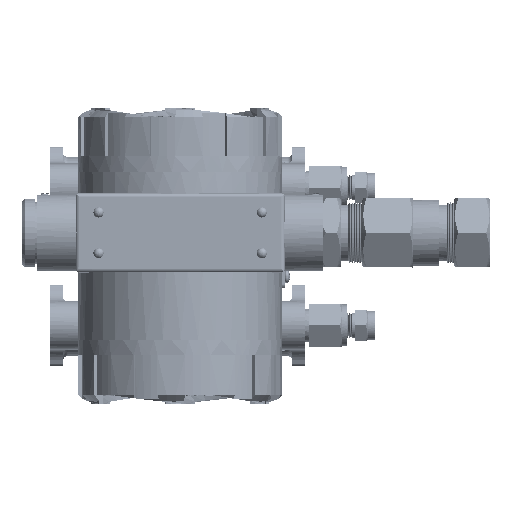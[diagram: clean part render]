
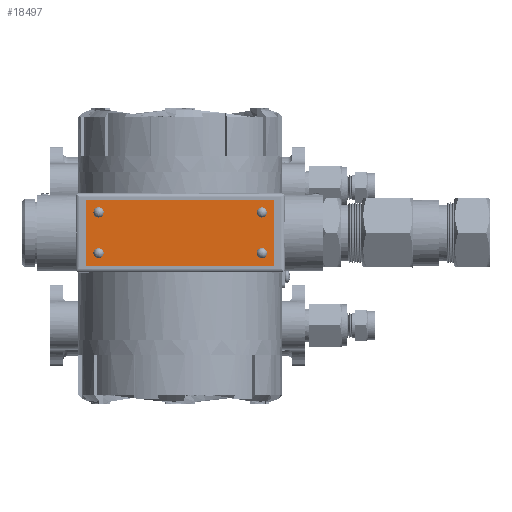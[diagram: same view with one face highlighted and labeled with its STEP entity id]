
A CAD part, top view. The second image highlights one B-rep face of the part: STEP entity #18497.
In plain terms, the highlighted planar face has unit normal (0, 0, 1).
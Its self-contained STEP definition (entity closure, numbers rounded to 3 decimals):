
#18497=ADVANCED_FACE('',(#56079,#56081,#56083,#56085,#56087),#56089,.T.);
#56079=FACE_BOUND('',#56080,.T.);
#56080=EDGE_LOOP('',(#380567,#380568,#380569,#380570));
#56081=FACE_BOUND('',#56082,.T.);
#56082=EDGE_LOOP('',(#380571,#380572));
#56083=FACE_BOUND('',#56084,.T.);
#56084=EDGE_LOOP('',(#380573,#380574));
#56085=FACE_BOUND('',#56086,.T.);
#56086=EDGE_LOOP('',(#380575,#380576));
#56087=FACE_BOUND('',#56088,.T.);
#56088=EDGE_LOOP('',(#380577,#380578));
#56089=PLANE('',#56090);
#56090=AXIS2_PLACEMENT_3D('',#56091,#56092,#56093);
#56091=CARTESIAN_POINT('',(0.,9.,158.5));
#56092=DIRECTION('',(0.,0.,1.));
#56093=DIRECTION('',(1.,0.,0.));
#380567=ORIENTED_EDGE('',*,*,#397375,.F.);
#380568=ORIENTED_EDGE('',*,*,#397385,.F.);
#380569=ORIENTED_EDGE('',*,*,#397382,.F.);
#380570=ORIENTED_EDGE('',*,*,#397379,.F.);
#380571=ORIENTED_EDGE('',*,*,#397364,.T.);
#380572=ORIENTED_EDGE('',*,*,#397363,.T.);
#380573=ORIENTED_EDGE('',*,*,#397369,.T.);
#380574=ORIENTED_EDGE('',*,*,#397370,.T.);
#380575=ORIENTED_EDGE('',*,*,#397373,.T.);
#380576=ORIENTED_EDGE('',*,*,#397374,.T.);
#380577=ORIENTED_EDGE('',*,*,#397360,.T.);
#380578=ORIENTED_EDGE('',*,*,#397359,.T.);
#397359=EDGE_CURVE('',#412073,#412074,#412075,.T.);
#397360=EDGE_CURVE('',#412074,#412073,#412076,.T.);
#397363=EDGE_CURVE('',#412081,#412082,#412083,.T.);
#397364=EDGE_CURVE('',#412082,#412081,#412084,.T.);
#397369=EDGE_CURVE('',#412093,#412094,#412095,.T.);
#397370=EDGE_CURVE('',#412094,#412093,#412096,.T.);
#397373=EDGE_CURVE('',#412101,#412102,#412103,.T.);
#397374=EDGE_CURVE('',#412102,#412101,#412104,.T.);
#397375=EDGE_CURVE('',#412105,#412106,#412107,.T.);
#397379=EDGE_CURVE('',#412106,#412113,#412114,.T.);
#397382=EDGE_CURVE('',#412113,#412118,#412119,.T.);
#397385=EDGE_CURVE('',#412118,#412105,#412123,.T.);
#412073=VERTEX_POINT('',#456996);
#412074=VERTEX_POINT('',#456997);
#412075=CIRCLE('',#456998,1.45);
#412076=CIRCLE('',#457002,1.45);
#412081=VERTEX_POINT('',#457016);
#412082=VERTEX_POINT('',#457017);
#412083=CIRCLE('',#457018,1.45);
#412084=CIRCLE('',#457022,1.45);
#412093=VERTEX_POINT('',#457046);
#412094=VERTEX_POINT('',#457047);
#412095=CIRCLE('',#457048,1.45);
#412096=CIRCLE('',#457052,1.45);
#412101=VERTEX_POINT('',#457066);
#412102=VERTEX_POINT('',#457067);
#412103=CIRCLE('',#457068,1.45);
#412104=CIRCLE('',#457072,1.45);
#412105=VERTEX_POINT('',#457076);
#412106=VERTEX_POINT('',#457077);
#412107=LINE('',#457078,#457079);
#412113=VERTEX_POINT('',#457092);
#412114=LINE('',#457093,#457094);
#412118=VERTEX_POINT('',#457103);
#412119=LINE('',#457104,#457105);
#412123=LINE('',#457114,#457115);
#456996=CARTESIAN_POINT('',(32.,-0.45,158.5));
#456997=CARTESIAN_POINT('',(33.45,1.,158.5));
#456998=AXIS2_PLACEMENT_3D('',#456999,#457000,#457001);
#456999=CARTESIAN_POINT('',(32.,1.,158.5));
#457000=DIRECTION('',(0.,0.,-1.));
#457001=DIRECTION('',(0.,-1.,0.));
#457002=AXIS2_PLACEMENT_3D('',#457003,#457004,#457005);
#457003=CARTESIAN_POINT('',(32.,1.,158.5));
#457004=DIRECTION('',(0.,0.,-1.));
#457005=DIRECTION('',(1.,0.,0.));
#457016=CARTESIAN_POINT('',(32.,18.45,158.5));
#457017=CARTESIAN_POINT('',(33.45,17.,158.5));
#457018=AXIS2_PLACEMENT_3D('',#457019,#457020,#457021);
#457019=CARTESIAN_POINT('',(32.,17.,158.5));
#457020=DIRECTION('',(0.,0.,-1.));
#457021=DIRECTION('',(0.,1.,0.));
#457022=AXIS2_PLACEMENT_3D('',#457023,#457024,#457025);
#457023=CARTESIAN_POINT('',(32.,17.,158.5));
#457024=DIRECTION('',(0.,0.,-1.));
#457025=DIRECTION('',(1.,0.,0.));
#457046=CARTESIAN_POINT('',(-33.45,17.,158.5));
#457047=CARTESIAN_POINT('',(-32.,18.45,158.5));
#457048=AXIS2_PLACEMENT_3D('',#457049,#457050,#457051);
#457049=CARTESIAN_POINT('',(-32.,17.,158.5));
#457050=DIRECTION('',(0.,0.,-1.));
#457051=DIRECTION('',(-1.,0.,0.));
#457052=AXIS2_PLACEMENT_3D('',#457053,#457054,#457055);
#457053=CARTESIAN_POINT('',(-32.,17.,158.5));
#457054=DIRECTION('',(0.,0.,-1.));
#457055=DIRECTION('',(0.,1.,0.));
#457066=CARTESIAN_POINT('',(-33.45,1.,158.5));
#457067=CARTESIAN_POINT('',(-32.,-0.45,158.5));
#457068=AXIS2_PLACEMENT_3D('',#457069,#457070,#457071);
#457069=CARTESIAN_POINT('',(-32.,1.,158.5));
#457070=DIRECTION('',(0.,0.,-1.));
#457071=DIRECTION('',(-1.,0.,0.));
#457072=AXIS2_PLACEMENT_3D('',#457073,#457074,#457075);
#457073=CARTESIAN_POINT('',(-32.,1.,158.5));
#457074=DIRECTION('',(0.,0.,-1.));
#457075=DIRECTION('',(0.,-1.,0.));
#457076=CARTESIAN_POINT('',(37.,22.,158.5));
#457077=CARTESIAN_POINT('',(37.,-4.,158.5));
#457078=CARTESIAN_POINT('',(37.,22.,158.5));
#457079=VECTOR('',#457080,1.);
#457080=DIRECTION('',(0.,-1.,0.));
#457092=CARTESIAN_POINT('',(-37.,-4.,158.5));
#457093=CARTESIAN_POINT('',(37.,-4.,158.5));
#457094=VECTOR('',#457095,1.);
#457095=DIRECTION('',(-1.,0.,0.));
#457103=CARTESIAN_POINT('',(-37.,22.,158.5));
#457104=CARTESIAN_POINT('',(-37.,-4.,158.5));
#457105=VECTOR('',#457106,1.);
#457106=DIRECTION('',(0.,1.,0.));
#457114=CARTESIAN_POINT('',(-37.,22.,158.5));
#457115=VECTOR('',#457116,1.);
#457116=DIRECTION('',(1.,0.,0.));
